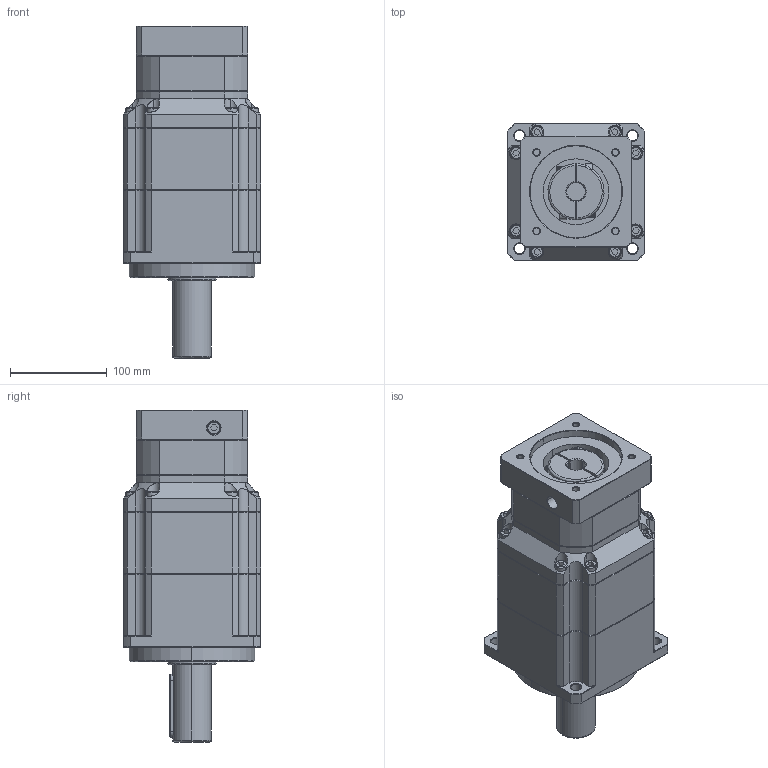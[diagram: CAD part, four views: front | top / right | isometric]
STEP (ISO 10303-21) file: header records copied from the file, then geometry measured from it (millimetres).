
FILE_DESCRIPTION (( 'STEP AP214' ), '1' );
FILE_NAME ('ZPB142-L3-P1-S2-19-95-115-M8.step', '2024-07-05T00:20:05', ( 'Windows 蚚誧' ), ( 'Organization' ), 'SwSTEP 2.0', 'SolidWorks 2016', '' );
FILE_SCHEMA (( 'AUTOMOTIVE_DESIGN' ));
Length unit declared in the file: millimetre
Products named in the file (1): ZPB142-L3-P1-S2-19-95-115-M8
Bounding box: 142 x 142 x 343 mm (x, y, z)
Surface area: 221744.7 mm2 (no closed solid volume)
Topology: 0 solids, 3 shells, 1844 faces, 4915 edges, 3170 vertices
Faces by surface type: plane 1059, bspline 397, cylinder 199, cone 189
Full cylindrical faces by diameter (mm): 14 x1
Entity records: 103576 total; most frequent: CARTESIAN_POINT 52512, ORIENTED_EDGE 9799, DIRECTION 7298, EDGE_CURVE 4914, LINE 3254, VECTOR 3254, VERTEX_POINT 3170, AXIS2_PLACEMENT_3D 2022
